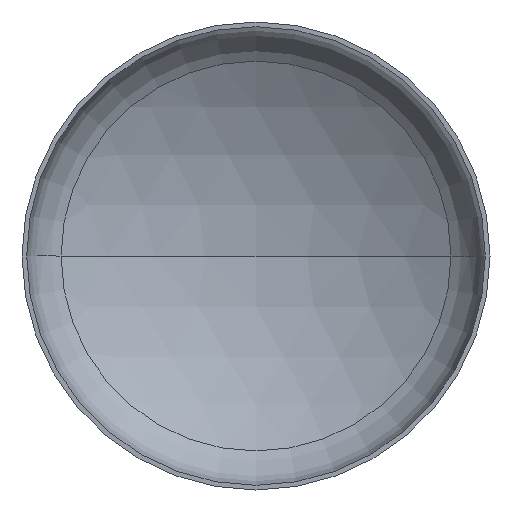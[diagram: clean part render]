
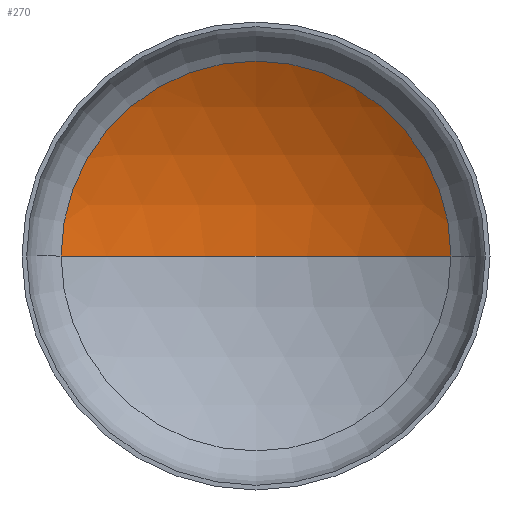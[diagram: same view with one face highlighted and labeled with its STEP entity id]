
A CAD part, front view. The second image highlights one B-rep face of the part: STEP entity #270.
In plain terms, the highlighted spherical face has radius 480 mm.
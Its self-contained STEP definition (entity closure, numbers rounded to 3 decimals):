
#5 = DIRECTION ( 'NONE',  ( 0., 0., -1. ) ) ;
#8 = ORIENTED_EDGE ( 'NONE', *, *, #341, .T. ) ;
#32 = AXIS2_PLACEMENT_3D ( 'NONE', #102, #296, #152 ) ;
#34 = AXIS2_PLACEMENT_3D ( 'NONE', #224, #386, #257 ) ;
#42 = ORIENTED_EDGE ( 'NONE', *, *, #336, .T. ) ;
#55 = AXIS2_PLACEMENT_3D ( 'NONE', #317, #176, #339 ) ;
#58 = EDGE_LOOP ( 'NONE', ( #68, #8, #42 ) ) ;
#63 = VERTEX_POINT ( 'NONE', #265 ) ;
#68 = ORIENTED_EDGE ( 'NONE', *, *, #348, .F. ) ;
#72 = AXIS2_PLACEMENT_3D ( 'NONE', #291, #5, #150 ) ;
#73 = VERTEX_POINT ( 'NONE', #251 ) ;
#102 = CARTESIAN_POINT ( 'NONE',  ( 0., -311.27, 0. ) ) ;
#145 = CARTESIAN_POINT ( 'NONE',  ( 249.897, 98.549, 0. ) ) ;
#150 = DIRECTION ( 'NONE',  ( -1., 0., 0. ) ) ;
#152 = DIRECTION ( 'NONE',  ( 1., 0., 0. ) ) ;
#168 = VERTEX_POINT ( 'NONE', #145 ) ;
#176 = DIRECTION ( 'NONE',  ( 0., -1., 0. ) ) ;
#224 = CARTESIAN_POINT ( 'NONE',  ( 0., -311.27, 0. ) ) ;
#239 = CIRCLE ( 'NONE', #34, 480. ) ;
#251 = CARTESIAN_POINT ( 'NONE',  ( -249.897, 98.549, 0. ) ) ;
#257 = DIRECTION ( 'NONE',  ( -1., 0., 0. ) ) ;
#265 = CARTESIAN_POINT ( 'NONE',  ( 0., 168.73, 0. ) ) ;
#270 = ADVANCED_FACE ( 'NONE', ( #325 ), #313, .F. ) ;
#291 = CARTESIAN_POINT ( 'NONE',  ( 0., -311.27, 0. ) ) ;
#296 = DIRECTION ( 'NONE',  ( 0., 0., 1. ) ) ;
#313 = SPHERICAL_SURFACE ( 'NONE', #72, 480. ) ;
#317 = CARTESIAN_POINT ( 'NONE',  ( 0., 98.549, 0. ) ) ;
#325 = FACE_OUTER_BOUND ( 'NONE', #58, .T. ) ;
#336 = EDGE_CURVE ( 'NONE', #168, #73, #406, .T. ) ;
#339 = DIRECTION ( 'NONE',  ( 1., 0., 0. ) ) ;
#341 = EDGE_CURVE ( 'NONE', #63, #168, #239, .T. ) ;
#348 = EDGE_CURVE ( 'NONE', #63, #73, #361, .T. ) ;
#361 = CIRCLE ( 'NONE', #32, 480. ) ;
#386 = DIRECTION ( 'NONE',  ( 0., 0., -1. ) ) ;
#406 = CIRCLE ( 'NONE', #55, 249.897 ) ;
